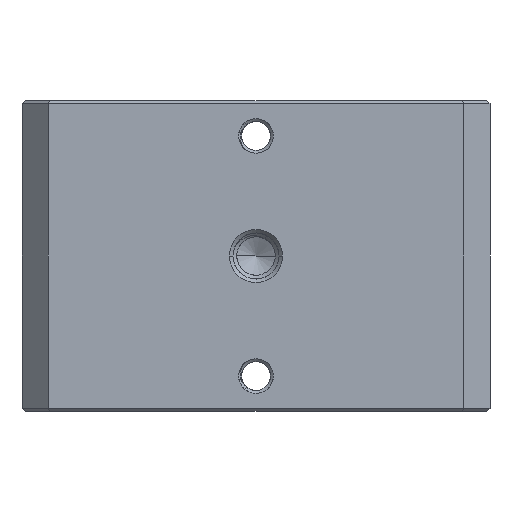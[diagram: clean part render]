
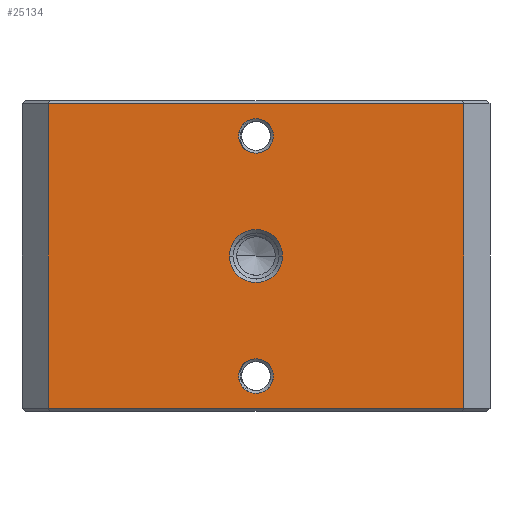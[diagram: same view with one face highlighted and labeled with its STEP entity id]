
A CAD part, front view. The second image highlights one B-rep face of the part: STEP entity #25134.
In plain terms, the highlighted planar face has unit normal (0, -1, 0).
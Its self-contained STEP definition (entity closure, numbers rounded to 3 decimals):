
#3541=CARTESIAN_POINT('',(0.,-20.32,0.));
#3542=DIRECTION('',(0.,1.,0.));
#3543=DIRECTION('',(-1.,0.,0.));
#3544=AXIS2_PLACEMENT_3D('',#3541,#3542,#3543);
#3546=CARTESIAN_POINT('',(0.,-20.32,0.));
#3547=DIRECTION('',(0.,1.,0.));
#3548=DIRECTION('',(1.,0.,0.));
#3549=AXIS2_PLACEMENT_3D('',#3546,#3547,#3548);
#3551=DIRECTION('',(-1.,0.,0.));
#3552=VECTOR('',#3551,36.068);
#3553=CARTESIAN_POINT('',(18.034,-20.32,-13.2));
#3554=LINE('',#3553,#3552);
#3555=DIRECTION('',(0.,0.,1.));
#3556=VECTOR('',#3555,26.4);
#3557=CARTESIAN_POINT('',(-18.034,-20.32,-13.2));
#3558=LINE('',#3557,#3556);
#3559=DIRECTION('',(1.,0.,0.));
#3560=VECTOR('',#3559,36.068);
#3561=CARTESIAN_POINT('',(-18.034,-20.32,13.2));
#3562=LINE('',#3561,#3560);
#3563=CARTESIAN_POINT('',(0.,-20.32,10.425));
#3564=DIRECTION('',(0.,-1.,0.));
#3565=DIRECTION('',(1.,0.,0.));
#3566=AXIS2_PLACEMENT_3D('',#3563,#3564,#3565);
#3568=CARTESIAN_POINT('',(0.,-20.32,10.425));
#3569=DIRECTION('',(0.,-1.,0.));
#3570=DIRECTION('',(-1.,0.,0.));
#3571=AXIS2_PLACEMENT_3D('',#3568,#3569,#3570);
#3573=CARTESIAN_POINT('',(0.,-20.32,-10.425));
#3574=DIRECTION('',(0.,-1.,0.));
#3575=DIRECTION('',(1.,0.,0.));
#3576=AXIS2_PLACEMENT_3D('',#3573,#3574,#3575);
#3578=CARTESIAN_POINT('',(0.,-20.32,-10.425));
#3579=DIRECTION('',(0.,-1.,0.));
#3580=DIRECTION('',(-1.,0.,0.));
#3581=AXIS2_PLACEMENT_3D('',#3578,#3579,#3580);
#4250=DIRECTION('',(0.,0.,1.));
#4251=VECTOR('',#4250,26.4);
#4252=CARTESIAN_POINT('',(18.034,-20.32,-13.2));
#4253=LINE('',#4252,#4251);
#19960=CARTESIAN_POINT('',(-2.3,-20.32,0.));
#19961=CARTESIAN_POINT('',(2.3,-20.32,0.));
#19962=VERTEX_POINT('',#19960);
#19963=VERTEX_POINT('',#19961);
#20380=CARTESIAN_POINT('',(18.034,-20.32,-13.2));
#20381=VERTEX_POINT('',#20380);
#20384=CARTESIAN_POINT('',(-18.034,-20.32,-13.2));
#20385=VERTEX_POINT('',#20384);
#20452=CARTESIAN_POINT('',(18.034,-20.32,13.2));
#20453=VERTEX_POINT('',#20452);
#20458=CARTESIAN_POINT('',(-18.034,-20.32,13.2));
#20459=VERTEX_POINT('',#20458);
#20468=CARTESIAN_POINT('',(1.5,-20.32,10.425));
#20469=CARTESIAN_POINT('',(-1.5,-20.32,10.425));
#20470=VERTEX_POINT('',#20468);
#20471=VERTEX_POINT('',#20469);
#20472=CARTESIAN_POINT('',(1.5,-20.32,-10.425));
#20473=CARTESIAN_POINT('',(-1.5,-20.32,-10.425));
#20474=VERTEX_POINT('',#20472);
#20475=VERTEX_POINT('',#20473);
#25103=CARTESIAN_POINT('',(0.,-20.32,4.445));
#25104=DIRECTION('',(0.,1.,0.));
#25105=DIRECTION('',(0.,0.,1.));
#25106=AXIS2_PLACEMENT_3D('',#25103,#25104,#25105);
#25107=PLANE('',#25106);
#25109=ORIENTED_EDGE('',*,*,#25108,.T.);
#25111=ORIENTED_EDGE('',*,*,#25110,.T.);
#25113=ORIENTED_EDGE('',*,*,#25112,.T.);
#25115=ORIENTED_EDGE('',*,*,#25114,.F.);
#25116=EDGE_LOOP('',(#25109,#25111,#25113,#25115));
#25117=FACE_OUTER_BOUND('',#25116,.F.);
#25119=ORIENTED_EDGE('',*,*,#25118,.F.);
#25121=ORIENTED_EDGE('',*,*,#25120,.F.);
#25122=EDGE_LOOP('',(#25119,#25121));
#25123=FACE_BOUND('',#25122,.F.);
#25124=ORIENTED_EDGE('',*,*,#23862,.T.);
#25125=ORIENTED_EDGE('',*,*,#24169,.T.);
#25126=EDGE_LOOP('',(#25124,#25125));
#25127=FACE_BOUND('',#25126,.F.);
#25129=ORIENTED_EDGE('',*,*,#25128,.T.);
#25131=ORIENTED_EDGE('',*,*,#25130,.T.);
#25132=EDGE_LOOP('',(#25129,#25131));
#25133=FACE_BOUND('',#25132,.F.);
#25134=ADVANCED_FACE('',(#25117,#25123,#25127,#25133),#25107,.F.);
#3545=CIRCLE('',#3544,2.3);
#3550=CIRCLE('',#3549,2.3);
#3567=CIRCLE('',#3566,1.5);
#3572=CIRCLE('',#3571,1.5);
#3577=CIRCLE('',#3576,1.5);
#3582=CIRCLE('',#3581,1.5);
#23862=EDGE_CURVE('',#20470,#20471,#3567,.T.);
#24169=EDGE_CURVE('',#20471,#20470,#3572,.T.);
#25108=EDGE_CURVE('',#20381,#20385,#3554,.T.);
#25110=EDGE_CURVE('',#20385,#20459,#3558,.T.);
#25112=EDGE_CURVE('',#20459,#20453,#3562,.T.);
#25114=EDGE_CURVE('',#20381,#20453,#4253,.T.);
#25118=EDGE_CURVE('',#19962,#19963,#3545,.T.);
#25120=EDGE_CURVE('',#19963,#19962,#3550,.T.);
#25128=EDGE_CURVE('',#20474,#20475,#3577,.T.);
#25130=EDGE_CURVE('',#20475,#20474,#3582,.T.);
